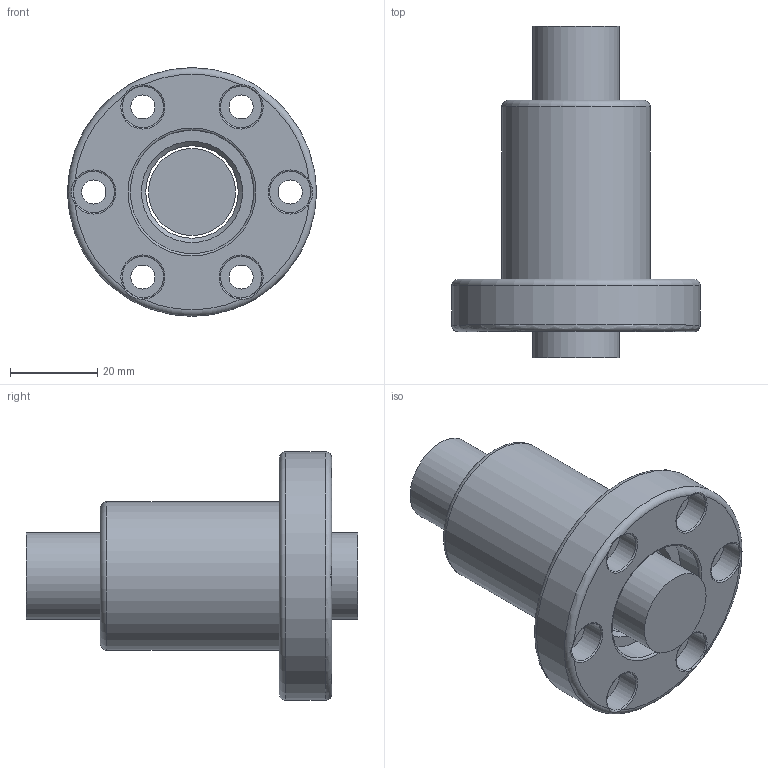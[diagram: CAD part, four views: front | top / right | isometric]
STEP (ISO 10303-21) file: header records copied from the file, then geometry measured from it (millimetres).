
FILE_DESCRIPTION(/* description */ (''),/* implementation_level */ '2;1');
FILE_NAME(/* name */ '2005T4N.prt.step',/* time_stamp */ '2008-12-05T09:33:27+08:00',/* author */ (''),/* organization */ (''),/* preprocessor_version */ 'ST-DEVELOPER v11',/* originating_system */ 'SIEMENS UGS NX 6.0',/* authorisation */ '');
FILE_SCHEMA (('AUTOMOTIVE_DESIGN { 1 0 10303 214 1 1 1 1 }'));
Length unit declared in the file: millimetre
Products named in the file (1): 2005T4N
Bounding box: 57 x 76 x 57 mm (x, y, z)
Volume: 65722 mm3; surface area: 21038.6 mm2
Topology: 2 solids, 2 shells, 56 faces, 127 edges, 78 vertices
Faces by surface type: cylinder 18, plane 13, torus 11, cone 8, bspline 6
Full cylindrical faces by diameter (mm): 5.5 x6, 9.5 x6, 19.95 x1, 21.2 x1, 28.3 x2, 34 x1, 57 x1
Entity records: 1492 total; most frequent: CARTESIAN_POINT 369, DIRECTION 246, ORIENTED_EDGE 168, AXIS2_PLACEMENT_3D 123, EDGE_LOOP 104, FACE_BOUND 90, EDGE_CURVE 84, CIRCLE 72
